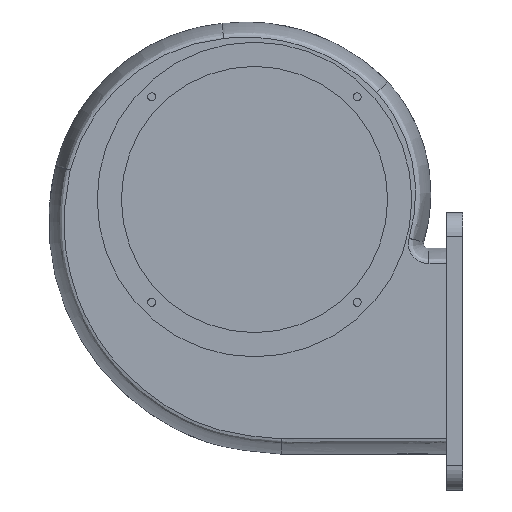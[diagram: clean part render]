
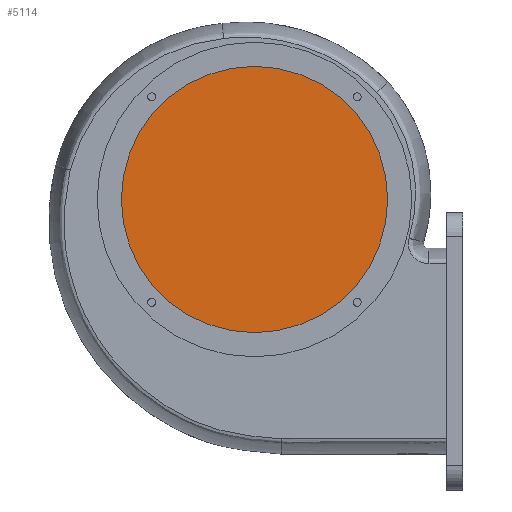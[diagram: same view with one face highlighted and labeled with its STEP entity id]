
A CAD part, left-side view. The second image highlights one B-rep face of the part: STEP entity #5114.
In plain terms, the highlighted planar face has unit normal (-1, 0, 0).
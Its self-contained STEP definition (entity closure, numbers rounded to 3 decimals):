
#1940=ORIENTED_EDGE('',*,*,#3359,.T.);
#3359=EDGE_CURVE('',#4020,#4020,#4209,.T.);
#4020=VERTEX_POINT('',#8589);
#4209=CIRCLE('',#5512,82.5);
#4338=EDGE_LOOP('',(#1940));
#4642=FACE_BOUND('',#4338,.T.);
#4879=PLANE('',#5511);
#5114=ADVANCED_FACE('',(#4642),#4879,.T.);
#5511=AXIS2_PLACEMENT_3D('',#8587,#6537,#6538);
#5512=AXIS2_PLACEMENT_3D('',#8588,#6539,#6540);
#6537=DIRECTION('',(-1.,0.,0.));
#6538=DIRECTION('',(0.,0.,1.));
#6539=DIRECTION('',(-1.,0.,0.));
#6540=DIRECTION('',(0.,0.,1.));
#8587=CARTESIAN_POINT('',(-63.,0.,0.));
#8588=CARTESIAN_POINT('',(-63.,0.,0.));
#8589=CARTESIAN_POINT('',(-63.,0.,82.5));
